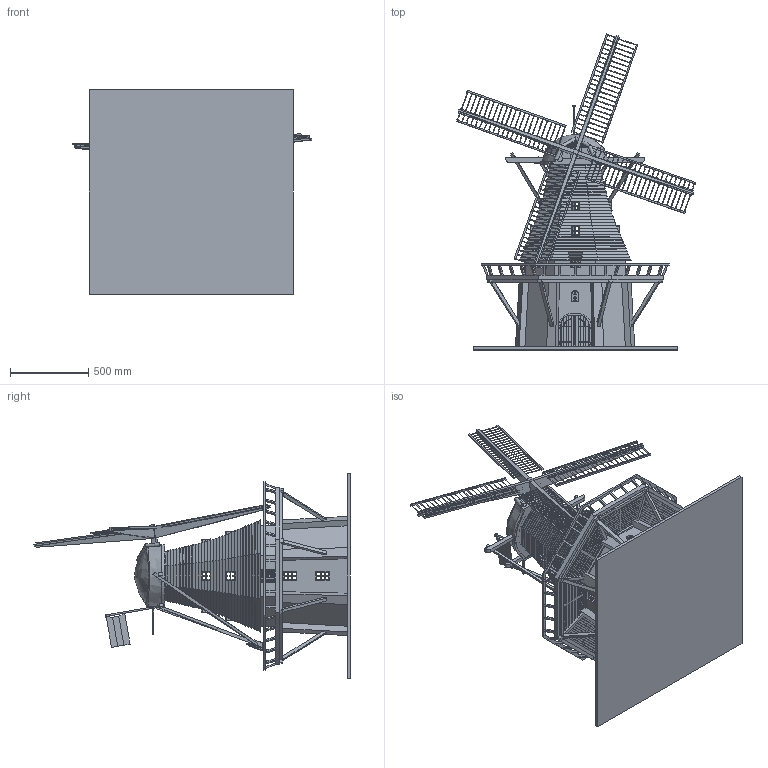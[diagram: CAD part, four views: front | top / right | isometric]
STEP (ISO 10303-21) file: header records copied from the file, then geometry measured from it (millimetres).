
FILE_DESCRIPTION(/* description */ (''),/* implementation_level */ '2;1');
FILE_NAME(/* name */ 'windmill.stp',/* time_stamp */ '2022-07-29T12:45:30+01:00',/* author */ (''),/* organization */ (''),/* preprocessor_version */ 'ST-DEVELOPER v19.3',/* originating_system */ 'SIEMENS PLM Software NX2212.800',/* authorisation */ '');
FILE_SCHEMA (('AUTOMOTIVE_DESIGN { 1 0 10303 214 3 1 1 1 }'));
Products named in the file (1): cleaned_270722
Bounding box: 1525.14 x 2015.48 x 1300 mm (x, y, z)
Volume: 89308370.4 mm3; surface area: 14789521.6 mm2
Topology: 26 solids, 51 shells, 5127 faces, 14684 edges, 9091 vertices
Faces by surface type: plane 4626, cylinder 439, bspline 35, torus 27
Full cylindrical faces by diameter (mm): 2 x20, 2.5 x4, 3 x56, 4 x184, 6 x8, 8 x18, 10 x1, 15 x1, 23.182 x1, 24 x2, 56 x1, 68 x1, 116 x1, 128 x1, 254 x1, 274 x1, 280 x1, 350 x1
Entity records: 177134 total; most frequent: CARTESIAN_POINT 38396, ORIENTED_EDGE 28336, DIRECTION 25167, EDGE_CURVE 14168, LINE 12699, VECTOR 12699, VERTEX_POINT 8881, AXIS2_PLACEMENT_3D 6234
